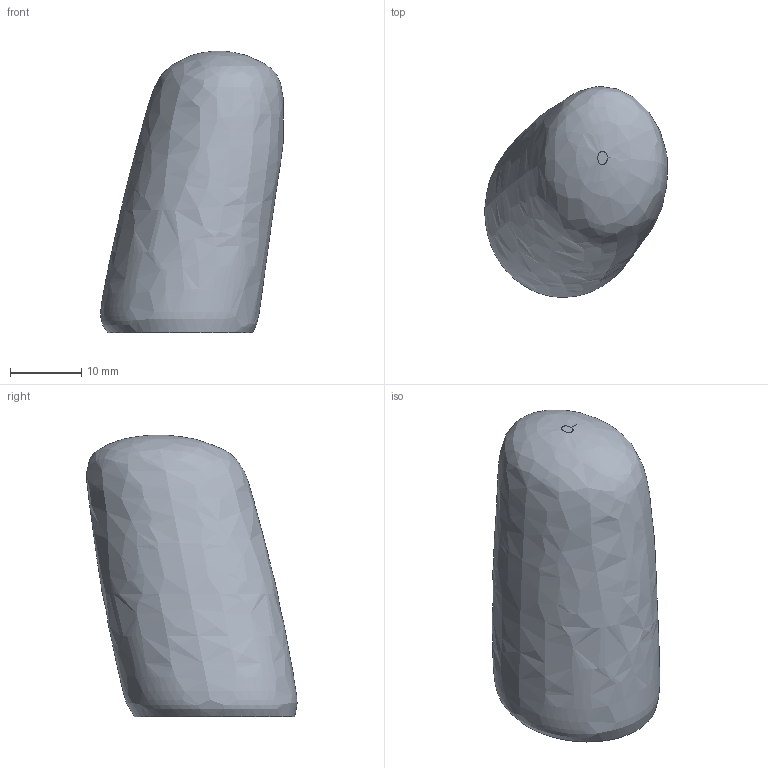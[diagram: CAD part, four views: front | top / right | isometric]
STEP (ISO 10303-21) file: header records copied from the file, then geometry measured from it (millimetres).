
FILE_DESCRIPTION(('FreeCAD Model'),'2;1');
FILE_NAME('Open CASCADE Shape Model','2026-11-20T08:25:36',('FreeCAD'),( 'FreeCAD'),'Open CASCADE STEP processor 7.8','FreeCAD','Unknown');
FILE_SCHEMA(('AUTOMOTIVE_DESIGN { 1 0 10303 214 1 1 1 1 }'));
Length unit declared in the file: millimetre
Products named in the file (1): Open CASCADE STEP translator 7.8 24
Bounding box: 25.75 x 29.6 x 39.66 mm (x, y, z)
Volume: 5980.9 mm3; surface area: 5312.7 mm2
Topology: 1 solids, 1 shells, 5 faces, 6 edges, 4 vertices
Faces by surface type: plane 3, bspline 2
Entity records: 560 total; most frequent: CARTESIAN_POINT 492, ORIENTED_EDGE 12, DIRECTION 8, FACE_BOUND 6, EDGE_LOOP 6, EDGE_CURVE 6, ADVANCED_FACE 5, AXIS2_PLACEMENT_3D 4
